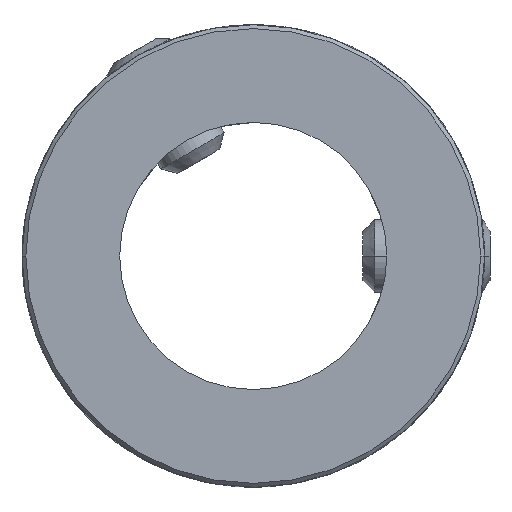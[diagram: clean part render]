
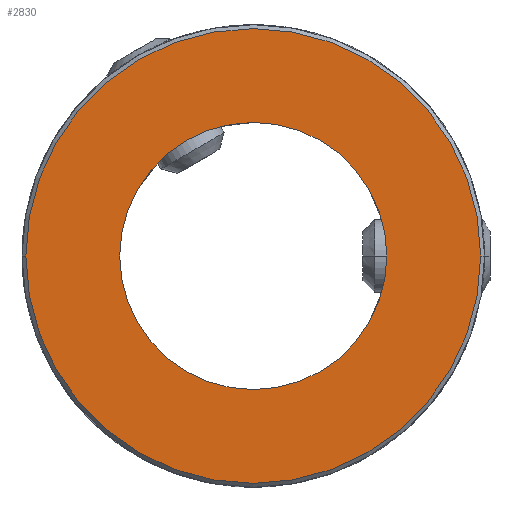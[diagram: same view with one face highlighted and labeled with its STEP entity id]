
A CAD part, front view. The second image highlights one B-rep face of the part: STEP entity #2830.
In plain terms, the highlighted planar face has unit normal (0, -1, 0).
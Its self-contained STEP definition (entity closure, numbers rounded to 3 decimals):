
#1=CARTESIAN_POINT('',(0.,-33.35,
0.));
#2=DIRECTION('',(0.,-1.,0.));
#3=DIRECTION('',(-1.,0.,0.));
#4=AXIS2_PLACEMENT_3D('',#1,#2,#3);
#6=CARTESIAN_POINT('',(0.,-33.35,
0.));
#7=DIRECTION('',(0.,-1.,0.));
#8=DIRECTION('',(1.,0.,0.));
#9=AXIS2_PLACEMENT_3D('',#6,#7,#8);
#11=CARTESIAN_POINT('',(0.,-33.35,0.));
#12=DIRECTION('',(0.,1.,0.));
#13=DIRECTION('',(1.,0.,0.));
#14=AXIS2_PLACEMENT_3D('',#11,#12,#13);
#16=CARTESIAN_POINT('',(0.,-33.35,0.));
#17=DIRECTION('',(0.,1.,0.));
#18=DIRECTION('',(-1.,0.,0.));
#19=AXIS2_PLACEMENT_3D('',#16,#17,#18);
#2591=CARTESIAN_POINT('',(11.,-33.35,0.));
#2592=CARTESIAN_POINT('',(-11.,-33.35,0.));
#2593=VERTEX_POINT('',#2591);
#2594=VERTEX_POINT('',#2592);
#2619=CARTESIAN_POINT('',(-18.73,-33.35,0.));
#2620=CARTESIAN_POINT('',(18.73,-33.35,0.));
#2621=VERTEX_POINT('',#2619);
#2622=VERTEX_POINT('',#2620);
#2813=CARTESIAN_POINT('',(0.,-33.35,0.));
#2814=DIRECTION('',(0.,1.,0.));
#2815=DIRECTION('',(1.,0.,0.));
#2816=AXIS2_PLACEMENT_3D('',#2813,#2814,#2815);
#2817=PLANE('',#2816);
#2819=ORIENTED_EDGE('',*,*,#2818,.F.);
#2821=ORIENTED_EDGE('',*,*,#2820,.F.);
#2822=EDGE_LOOP('',(#2819,#2821));
#2823=FACE_OUTER_BOUND('',#2822,.F.);
#2825=ORIENTED_EDGE('',*,*,#2824,.F.);
#2827=ORIENTED_EDGE('',*,*,#2826,.F.);
#2828=EDGE_LOOP('',(#2825,#2827));
#2829=FACE_BOUND('',#2828,.F.);
#2830=ADVANCED_FACE('',(#2823,#2829),#2817,.F.);
#5=CIRCLE('',#4,18.73);
#10=CIRCLE('',#9,18.73);
#15=CIRCLE('',#14,11.);
#20=CIRCLE('',#19,11.);
#2818=EDGE_CURVE('',#2621,#2622,#5,.T.);
#2820=EDGE_CURVE('',#2622,#2621,#10,.T.);
#2824=EDGE_CURVE('',#2593,#2594,#15,.T.);
#2826=EDGE_CURVE('',#2594,#2593,#20,.T.);
